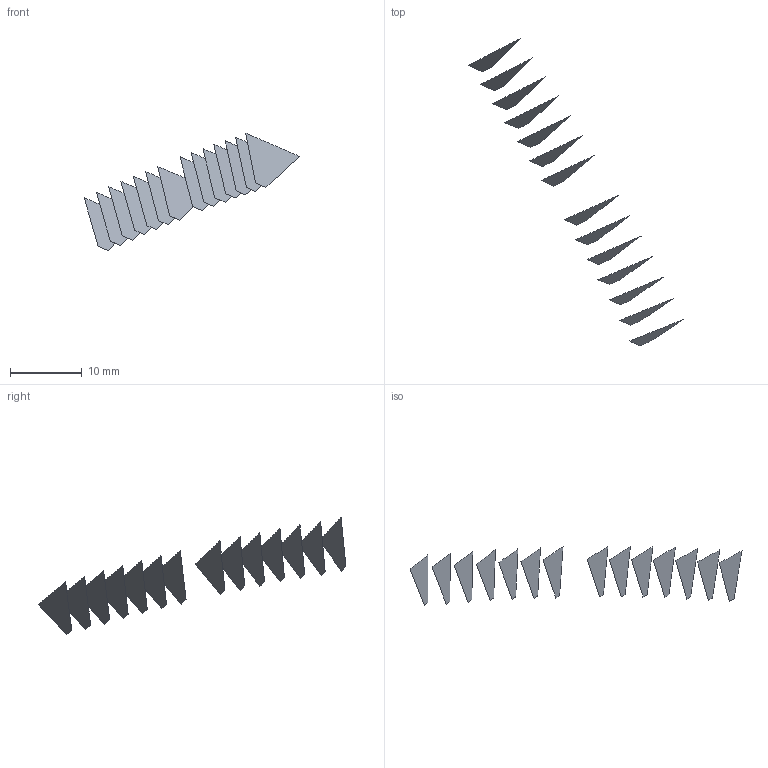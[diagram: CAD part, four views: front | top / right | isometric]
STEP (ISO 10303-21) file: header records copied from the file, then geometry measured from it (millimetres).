
FILE_DESCRIPTION(('FreeCAD Model'),'2;1');
FILE_NAME('Open CASCADE Shape Model','2022-05-22T07:50:31',('FreeCAD'),( 'FreeCAD'),'Open CASCADE STEP processor 7.5','FreeCAD','Unknown');
FILE_SCHEMA(('AUTOMOTIVE_DESIGN { 1 0 10303 214 1 1 1 1 }'));
Length unit declared in the file: millimetre
Products named in the file (15): Open CASCADE STEP translator 7.5 7; Open CASCADE STEP translator 7.5 7.1; Open CASCADE STEP translator 7.5 7.2; Open CASCADE STEP translator 7.5 7.3; Open CASCADE STEP translator 7.5 7.4; Open CASCADE STEP translator 7.5 7.5; Open CASCADE STEP translator 7.5 7.6; Open CASCADE STEP translator 7.5 7.7; Open CASCADE STEP translator 7.5 7.8; Open CASCADE STEP translator 7.5 7.9; Open CASCADE STEP translator 7.5 7.10; Open CASCADE STEP translator 7.5 7.11; Open CASCADE STEP translator 7.5 7.12; Open CASCADE STEP translator 7.5 7.13; Open CASCADE STEP translator 7.5 7.14
Assembly tree (14 placements, depth 2):
  Open CASCADE STEP translator 7.5 7
    Open CASCADE STEP translator 7.5 7.1
    Open CASCADE STEP translator 7.5 7.2
    Open CASCADE STEP translator 7.5 7.3
    Open CASCADE STEP translator 7.5 7.4
    Open CASCADE STEP translator 7.5 7.5
    Open CASCADE STEP translator 7.5 7.6
    Open CASCADE STEP translator 7.5 7.7
    Open CASCADE STEP translator 7.5 7.8
    Open CASCADE STEP translator 7.5 7.9
    Open CASCADE STEP translator 7.5 7.10
    Open CASCADE STEP translator 7.5 7.11
    Open CASCADE STEP translator 7.5 7.12
    Open CASCADE STEP translator 7.5 7.13
    Open CASCADE STEP translator 7.5 7.14
Bounding box: 29.95 x 42.75 x 16.35 mm (x, y, z)
Surface area: 446.6 mm2 (no closed solid volume)
Topology: 0 solids, 14 shells, 14 faces, 252 edges, 252 vertices
Faces by surface type: bspline 14
Entity records: 3684 total; most frequent: CARTESIAN_POINT 1331, B_SPLINE_CURVE_WITH_KNOTS 504, ORIENTED_EDGE 252, EDGE_CURVE 252, VERTEX_POINT 252, SURFACE_CURVE 252, PCURVE 252, DEFINITIONAL_REPRESENTATION 252
